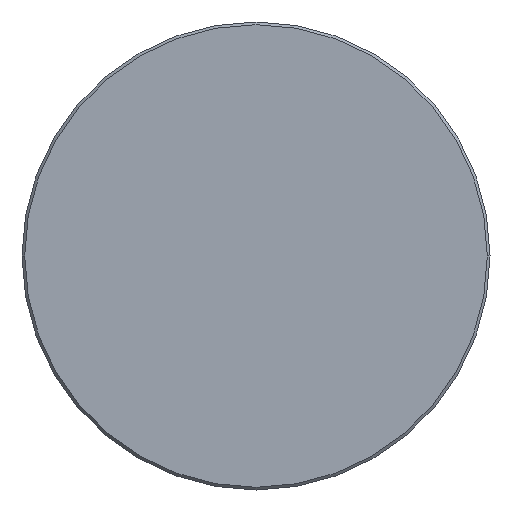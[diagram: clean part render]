
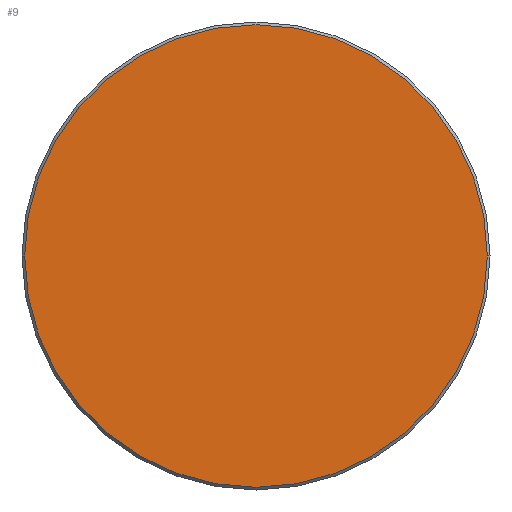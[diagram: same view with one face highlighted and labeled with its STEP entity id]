
A CAD part, left-side view. The second image highlights one B-rep face of the part: STEP entity #9.
In plain terms, the highlighted planar face has unit normal (-1, 0, 0).
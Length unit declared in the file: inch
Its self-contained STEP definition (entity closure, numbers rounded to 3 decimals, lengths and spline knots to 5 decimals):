
#9 = ADVANCED_FACE ( 'NONE', ( #253 ), #55, .T. ) ;
#15 = CARTESIAN_POINT ( 'NONE',  ( 0., -0.33975, 0. ) ) ;
#24 = DIRECTION ( 'NONE',  ( -1., 0., 0. ) ) ;
#52 = CIRCLE ( 'NONE', #311, 0.33975 ) ;
#55 = PLANE ( 'NONE',  #164 ) ;
#83 = CARTESIAN_POINT ( 'NONE',  ( 0., 0.33975, 0. ) ) ;
#91 = EDGE_CURVE ( 'NONE', #107, #180, #52, .T. ) ;
#107 = VERTEX_POINT ( 'NONE', #83 ) ;
#111 = DIRECTION ( 'NONE',  ( 0., -1., 0. ) ) ;
#136 = EDGE_LOOP ( 'NONE', ( #234, #232 ) ) ;
#143 = CARTESIAN_POINT ( 'NONE',  ( 0., 0., 0. ) ) ;
#164 = AXIS2_PLACEMENT_3D ( 'NONE', #381, #24, #111 ) ;
#170 = EDGE_CURVE ( 'NONE', #180, #107, #196, .T. ) ;
#180 = VERTEX_POINT ( 'NONE', #15 ) ;
#188 = DIRECTION ( 'NONE',  ( -1., 0., 0. ) ) ;
#196 = CIRCLE ( 'NONE', #368, 0.33975 ) ;
#232 = ORIENTED_EDGE ( 'NONE', *, *, #170, .T. ) ;
#234 = ORIENTED_EDGE ( 'NONE', *, *, #91, .T. ) ;
#238 = DIRECTION ( 'NONE',  ( -1., 0., 0. ) ) ;
#253 = FACE_OUTER_BOUND ( 'NONE', #136, .T. ) ;
#311 = AXIS2_PLACEMENT_3D ( 'NONE', #143, #238, #357 ) ;
#339 = DIRECTION ( 'NONE',  ( 0., -1., 0. ) ) ;
#357 = DIRECTION ( 'NONE',  ( 0., -1., 0. ) ) ;
#362 = CARTESIAN_POINT ( 'NONE',  ( 0., 0., 0. ) ) ;
#368 = AXIS2_PLACEMENT_3D ( 'NONE', #362, #188, #339 ) ;
#381 = CARTESIAN_POINT ( 'NONE',  ( 0., 0., 0. ) ) ;
